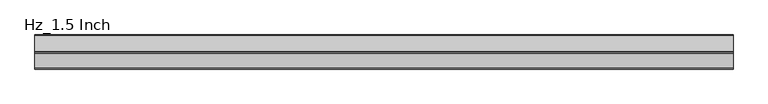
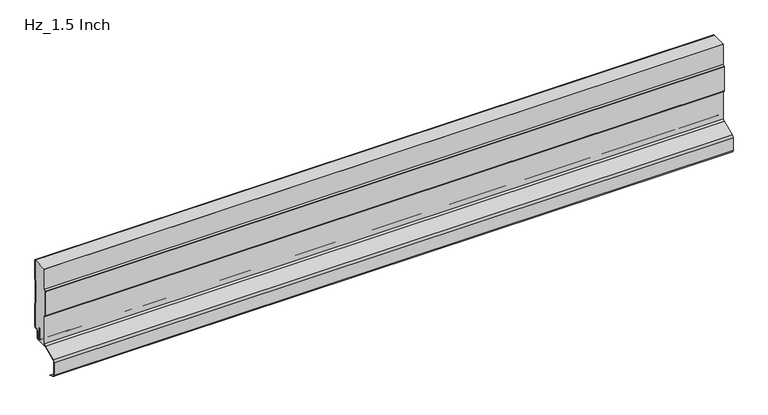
"""IFC4 building model written with IfcOpenShell, lengths in millimetres: plate geometry, AWIP_R18_CP_HR3_Hz_Roof Panel : Hz_1.5 Inch."""

from ifc_helpers import new_model, si_unit, point, frame, frame_2d, origin, place, context, project, spatial, polyline, circle_curve, trimmed, segment, composite_curve, outline, extrude, source, transform, mapped, element, save
from ifc_brep_helpers import plane_surface, cylinder_surface, revolved_surface, advanced_brep


def hz_1_5_inch_3f18da90(model_context):
    return source(origin(), model_context, "Body", "SolidModel", [
        extrude(outline(composite_curve([segment(polyline([(-0.8, 161.5426774), (-0.8, 203.2), (0.0, 203.2), (0.0, 161.5426774)]), True, "CONTINUOUS"), segment(trimmed(circle_curve(frame_2d((-3.2, 161.5426774)), 3.2), [point((0.0, 161.5426774))], [point((-0.2624164, 160.2735823))], False, "CARTESIAN"), True, "CONTINUOUS"), segment(polyline([(-0.2624164, 160.2735823), (-1.2949872, 157.8834831)]), True, "CONTINUOUS"), segment(trimmed(circle_curve(frame_2d((1.0, 156.8920026)), 2.5), [point((-1.2949872, 157.8834831))], [point((-1.5, 156.8920026))], True, "CARTESIAN"), True, "CONTINUOUS"), segment(polyline([(-1.5, 156.8920026), (-1.5, 108.5079974)]), True, "CONTINUOUS"), segment(trimmed(circle_curve(frame_2d((1.0, 108.5079974)), 2.5), [point((-1.5, 108.5079974))], [point((-1.2949872, 107.5165169))], True, "CARTESIAN"), True, "CONTINUOUS"), segment(polyline([(-1.2949872, 107.5165169), (-0.2624164, 105.1264177)]), True, "CONTINUOUS"), segment(trimmed(circle_curve(frame_2d((-3.2, 103.8573226)), 3.2), [point((-0.2624164, 105.1264177))], [point((0.0, 103.8573226))], False, "CARTESIAN"), True, "CONTINUOUS"), segment(polyline([(0.0, 103.8573226), (0.0, 54.1)]), True, "CONTINUOUS"), segment(trimmed(circle_curve(frame_2d((-3.0, 54.1)), 3.0), [point((0.0, 54.1))], [point((-3.0, 51.1))], False, "CARTESIAN"), True, "CONTINUOUS"), segment(polyline([(-3.0, 51.1), (-5.0, 51.1)]), True, "CONTINUOUS"), segment(trimmed(circle_curve(frame_2d((-5.0, 47.1)), 4.0), [point((-5.0, 51.1))], [point((-9.0, 47.1))], True, "CARTESIAN"), True, "CONTINUOUS"), segment(polyline([(-9.0, 47.1), (-9.0, 33.5841899)]), True, "CONTINUOUS"), segment(trimmed(circle_curve(frame_2d((-12.0, 33.5841899)), 3.0), [point((-9.0, 33.5841899))], [point((-12.0, 30.5841899))], False, "CARTESIAN"), True, "CONTINUOUS"), segment(polyline([(-12.0, 30.5841899), (-14.0, 30.5841899)]), True, "CONTINUOUS"), segment(trimmed(circle_curve(frame_2d((-14.0, 33.5841899)), 3.0), [point((-14.0, 30.5841899))], [point((-17.0, 33.5841899))], False, "CARTESIAN"), True, "CONTINUOUS"), segment(polyline([(-17.0, 33.5841899), (-17.0, 59.5252318), (-16.2, 59.5252318), (-16.2, 33.5841899)]), True, "CONTINUOUS"), segment(trimmed(circle_curve(frame_2d((-14.0, 33.5841899)), 2.2), [point((-16.2, 33.5841899))], [point((-14.0, 31.3841899))], True, "CARTESIAN"), True, "CONTINUOUS"), segment(polyline([(-14.0, 31.3841899), (-12.0, 31.3841899)]), True, "CONTINUOUS"), segment(trimmed(circle_curve(frame_2d((-12.0, 33.5841899)), 2.2), [point((-12.0, 31.3841899))], [point((-9.8, 33.5841899))], True, "CARTESIAN"), True, "CONTINUOUS"), segment(polyline([(-9.8, 33.5841899), (-9.8, 47.1)]), True, "CONTINUOUS"), segment(trimmed(circle_curve(frame_2d((-5.0, 47.1)), 4.8), [point((-9.8, 47.1))], [point((-5.0, 51.9))], False, "CARTESIAN"), True, "CONTINUOUS"), segment(polyline([(-5.0, 51.9), (-3.0, 51.9)]), True, "CONTINUOUS"), segment(trimmed(circle_curve(frame_2d((-3.0, 54.1)), 2.2), [point((-3.0, 51.9))], [point((-0.8, 54.1))], True, "CARTESIAN"), True, "CONTINUOUS"), segment(polyline([(-0.8, 54.1), (-0.8, 103.8573226)]), True, "CONTINUOUS"), segment(trimmed(circle_curve(frame_2d((-3.2, 103.8573226)), 2.4), [point((-0.8, 103.8573226))], [point((-0.9968123, 104.8091439))], True, "CARTESIAN"), True, "CONTINUOUS"), segment(polyline([(-0.9968123, 104.8091439), (-2.0293831, 107.1992431)]), True, "CONTINUOUS"), segment(trimmed(circle_curve(frame_2d((1.0, 108.5079974)), 3.3), [point((-2.0293831, 107.1992431))], [point((-2.3, 108.5079974))], False, "CARTESIAN"), True, "CONTINUOUS"), segment(polyline([(-2.3, 108.5079974), (-2.3, 156.8920026)]), True, "CONTINUOUS"), segment(trimmed(circle_curve(frame_2d((1.0, 156.8920026)), 3.3), [point((-2.3, 156.8920026))], [point((-2.0293831, 158.2007569))], False, "CARTESIAN"), True, "CONTINUOUS"), segment(polyline([(-2.0293831, 158.2007569), (-0.9968123, 160.5908561)]), True, "CONTINUOUS"), segment(trimmed(circle_curve(frame_2d((-3.2, 161.5426774)), 2.4), [point((-0.9968123, 160.5908561))], [point((-0.8, 161.5426774))], True, "CARTESIAN"), True, "CONTINUOUS")], self_intersect=False)), frame((-723.9042608, 0.0, 0.0), z_axis=(1.0, 0.0, 0.0), x_axis=(0.0, 1.0, 0.0)), (0.0, 0.0, 1.0), 1447.8085217),
        extrude(outline(composite_curve([segment(trimmed(circle_curve(frame_2d((-35.8158802, 96.0266872)), 1.3), [point((-34.7621793, 96.788077))], [point((-34.5158802, 96.0266872))], False, "CARTESIAN"), True, "CONTINUOUS"), segment(polyline([(-34.5158802, 96.0266872), (-34.5158802, 35.2427703)]), True, "CONTINUOUS"), segment(trimmed(circle_curve(frame_2d((-39.3158801, 35.2427703)), 4.7999999), [point((-34.5158802, 35.2427703))], [point((-37.440401, 30.8243343))], False, "CARTESIAN"), True, "CONTINUOUS"), segment(polyline([(-37.440401, 30.8243343), (-67.4569246, 18.0833189)]), True, "CONTINUOUS"), segment(trimmed(circle_curve(frame_2d((-65.8158804, 14.2171873)), 4.2), [point((-67.4569246, 18.0833189))], [point((-70.0158804, 14.2171873))], True, "CARTESIAN"), True, "CONTINUOUS"), segment(polyline([(-70.0158804, 14.2171873), (-70.0158804, -14.1639048)]), True, "CONTINUOUS"), segment(trimmed(circle_curve(frame_2d((-65.8158804, -14.1639048)), 4.2), [point((-70.0158804, -14.1639048))], [point((-67.4569214, -18.0300378))], True, "CARTESIAN"), True, "CONTINUOUS"), segment(polyline([(-67.4569214, -18.0300378), (-54.854669, -23.3792623), (-55.1672482, -24.1156686), (-67.7695006, -18.7664441)]), True, "CONTINUOUS"), segment(trimmed(circle_curve(frame_2d((-65.8158804, -14.1639048)), 5.0), [point((-67.7695006, -18.7664441))], [point((-70.8158804, -14.1639048))], False, "CARTESIAN"), True, "CONTINUOUS"), segment(polyline([(-70.8158804, -14.1639048), (-70.8158804, 14.2171873)]), True, "CONTINUOUS"), segment(trimmed(circle_curve(frame_2d((-65.8158804, 14.2171873)), 5.0), [point((-70.8158804, 14.2171873))], [point((-67.7695045, 18.8197249))], False, "CARTESIAN"), True, "CONTINUOUS"), segment(polyline([(-67.7695045, 18.8197249), (-37.7529809, 31.5607405)]), True, "CONTINUOUS"), segment(trimmed(circle_curve(frame_2d((-39.3158801, 35.2427703)), 3.9999997), [point((-37.7529809, 31.5607405))], [point((-35.3158804, 35.2427703))], True, "CARTESIAN"), True, "CONTINUOUS"), segment(polyline([(-35.3158804, 35.2427703), (-35.3158804, 96.1884306), (-37.8158081, 99.6481249)]), True, "CONTINUOUS"), segment(trimmed(circle_curve(frame_2d((-36.5999994, 100.5266516)), 1.4999999), [point((-37.8158081, 99.6481249))], [point((-38.0999994, 100.5266516))], False, "CARTESIAN"), True, "CONTINUOUS"), segment(polyline([(-38.0999994, 100.5266516), (-38.0999994, 154.2756802)]), True, "CONTINUOUS"), segment(trimmed(circle_curve(frame_2d((-36.5999997, 154.2766516)), 1.5), [point((-38.0999994, 154.2756802))], [point((-37.8158084, 155.1551783))], False, "CARTESIAN"), True, "CONTINUOUS"), segment(polyline([(-37.8158084, 155.1551783), (-35.3158803, 158.6148732), (-35.3158803, 203.2), (-34.5158802, 203.2), (-34.5158802, 158.7766163)]), True, "CONTINUOUS"), segment(trimmed(circle_curve(frame_2d((-35.8158802, 158.7766163)), 1.3), [point((-34.5158802, 158.7766163))], [point((-34.7621793, 158.0152264))], False, "CARTESIAN"), True, "CONTINUOUS"), segment(polyline([(-34.7621793, 158.0152264), (-37.2999997, 154.5030919), (-37.2999997, 100.3002117), (-34.7621793, 96.788077)]), True, "CONTINUOUS")], self_intersect=False)), frame((-723.9042608, 0.0, 0.0), z_axis=(1.0, 0.0, 0.0), x_axis=(0.0, 1.0, 0.0)), (0.0, 0.0, 1.0), 1447.8085217),
        advanced_brep(
        [(-723.9042608, -34.5158802, 35.2427703), (-723.9042608, -34.5158802, 96.0266872), (-723.9042608, -34.7621793, 96.788077), (-723.9042608, -37.2999997, 100.3002117), (-723.9042608, -37.2999997, 154.5030919), (-723.9042608, -34.7621793, 158.0152264), (-723.9042608, -34.5158802, 158.7766163), (-723.9042608, -34.5158802, 203.2), (-723.9042608, -0.8, 203.2), (-723.9042608, -0.8, 161.5426774), (-723.9042608, -0.9968123, 160.5908561), (-723.9042608, -2.0293831, 158.2007569), (-723.9042608, -2.3, 156.8920026), (-723.9042608, -2.3, 108.5079974), (-723.9042608, -2.0293831, 107.1992431), (-723.9042608, -0.9968123, 104.8091439), (-723.9042608, -0.8, 103.8573226), (-723.9042608, -0.8, 54.1), (-723.9042608, -3.0, 51.9), (-723.9042608, -5.0, 51.9), (-723.9042608, -9.8, 47.1), (-723.9042608, -9.8, 33.5841899), (-723.9042608, -12.0, 31.3841899), (-723.9042608, -14.0, 31.3841899), (-723.9042608, -16.2, 33.5841899), (-723.9042608, -16.2, 59.5252318), (-723.9042608, -17.0, 59.5252318), (-723.9042608, -17.0, 33.5841899), (-723.9042608, -14.0, 30.5841899), (-723.9042608, -38.2298572, 30.5672433), (723.9042608, -34.5158802, 35.2427703), (723.9042608, -38.2298572, 30.5672433), (723.9042608, -14.0, 30.5672433), (723.9042608, -17.0, 33.5841899), (723.9042608, -17.0, 59.5252318), (723.9042608, -16.2, 59.5252318), (723.9042608, -16.2, 33.5841899), (723.9042608, -14.0, 31.3841899), (723.9042608, -12.0, 31.3841899), (723.9042608, -9.8, 33.5841899), (723.9042608, -9.8, 47.1), (723.9042608, -5.0, 51.9), (723.9042608, -3.0, 51.9), (723.9042608, -0.8, 54.1), (723.9042608, -0.8, 103.8573226), (723.9042608, -0.9968123, 104.8091439), (723.9042608, -2.0293831, 107.1992431), (723.9042608, -2.3, 108.5079974), (723.9042608, -2.3, 156.8920026), (723.9042608, -2.0293831, 158.2007569), (723.9042608, -0.9968123, 160.5908561), (723.9042608, -0.8, 161.5426774), (723.9042608, -0.8, 203.2), (723.9042608, -34.5158802, 203.2), (723.9042608, -34.5158802, 158.7766163), (723.9042608, -34.7621793, 158.0152264), (723.9042608, -37.2999997, 154.5030919), (723.9042608, -37.2999997, 100.3002117), (723.9042608, -34.7621793, 96.788077), (723.9042608, -34.5158802, 96.0266872)],
        [
            (0, 1),
            (1, 2, circle_curve(frame((-723.9042608, -35.8158802, 96.0266872), z_axis=(1.0, 0.0, 0.0), x_axis=(0.0, -1.0, 0.0)), 1.3)),
            (2, 3),
            (3, 4),
            (4, 5),
            (5, 6, circle_curve(frame((-723.9042608, -35.8158802, 158.7766163), z_axis=(1.0, 0.0, 0.0), x_axis=(0.0, -1.0, 0.0)), 1.3)),
            (6, 7),
            (7, 8),
            (8, 9),
            (9, 10, circle_curve(frame((-723.9042608, -3.2, 161.5426774), z_axis=(-1.0, 0.0, 0.0), x_axis=(0.0, -1.0, 0.0)), 2.4)),
            (10, 11),
            (11, 12, circle_curve(frame((-723.9042608, 1.0, 156.8920026), z_axis=(1.0, 0.0, 0.0), x_axis=(0.0, -1.0, 0.0)), 3.3)),
            (12, 13),
            (13, 14, circle_curve(frame((-723.9042608, 1.0, 108.5079974), z_axis=(1.0, 0.0, 0.0), x_axis=(0.0, -1.0, 0.0)), 3.3)),
            (14, 15),
            (15, 16, circle_curve(frame((-723.9042608, -3.2, 103.8573226), z_axis=(-1.0, 0.0, 0.0), x_axis=(0.0, -1.0, 0.0)), 2.4)),
            (16, 17),
            (17, 18, circle_curve(frame((-723.9042608, -3.0, 54.1), z_axis=(-1.0, 0.0, 0.0), x_axis=(0.0, -1.0, 0.0)), 2.2)),
            (18, 19),
            (19, 20, circle_curve(frame((-723.9042608, -5.0, 47.1), z_axis=(1.0, 0.0, 0.0), x_axis=(0.0, -1.0, 0.0)), 4.8)),
            (20, 21),
            (21, 22, circle_curve(frame((-723.9042608, -12.0, 33.5841899), z_axis=(-1.0, 0.0, 0.0), x_axis=(0.0, -1.0, 0.0)), 2.2)),
            (22, 23),
            (23, 24, circle_curve(frame((-723.9042608, -14.0, 33.5841899), z_axis=(-1.0, 0.0, 0.0), x_axis=(0.0, -1.0, 0.0)), 2.2)),
            (24, 25),
            (25, 26),
            (26, 27),
            (27, 28, circle_curve(frame((-723.9042608, -14.0, 33.5841899), z_axis=(1.0, 0.0, 0.0), x_axis=(0.0, -1.0, 0.0)), 3.0)),
            (28, 29),
            (29, 0, circle_curve(frame((-723.9042608, -39.3158801, 35.2427703), z_axis=(1.0, 0.0, 0.0), x_axis=(0.0, -1.0, 0.0)), 4.7999999)),
            (30, 31, circle_curve(frame((723.9042608, -39.3158801, 35.2427703), z_axis=(-1.0, 0.0, 0.0), x_axis=(0.0, -1.0, 0.0)), 4.7999999)),
            (31, 32),
            (32, 33, circle_curve(frame((723.9042608, -14.0, 33.5841899), z_axis=(-1.0, 0.0, 0.0), x_axis=(0.0, -1.0, 0.0)), 3.0)),
            (33, 34),
            (34, 35),
            (35, 36),
            (36, 37, circle_curve(frame((723.9042608, -14.0, 33.5841899), z_axis=(1.0, 0.0, 0.0), x_axis=(0.0, -1.0, 0.0)), 2.2)),
            (37, 38),
            (38, 39, circle_curve(frame((723.9042608, -12.0, 33.5841899), z_axis=(1.0, 0.0, 0.0), x_axis=(0.0, -1.0, 0.0)), 2.2)),
            (39, 40),
            (40, 41, circle_curve(frame((723.9042608, -5.0, 47.1), z_axis=(-1.0, 0.0, 0.0), x_axis=(0.0, -1.0, 0.0)), 4.8)),
            (41, 42),
            (42, 43, circle_curve(frame((723.9042608, -3.0, 54.1), z_axis=(1.0, 0.0, 0.0), x_axis=(0.0, -1.0, 0.0)), 2.2)),
            (43, 44),
            (44, 45, circle_curve(frame((723.9042608, -3.2, 103.8573226), z_axis=(1.0, 0.0, 0.0), x_axis=(0.0, -1.0, 0.0)), 2.4)),
            (45, 46),
            (46, 47, circle_curve(frame((723.9042608, 1.0, 108.5079974), z_axis=(-1.0, 0.0, 0.0), x_axis=(0.0, -1.0, 0.0)), 3.3)),
            (47, 48),
            (48, 49, circle_curve(frame((723.9042608, 1.0, 156.8920026), z_axis=(-1.0, 0.0, 0.0), x_axis=(0.0, -1.0, 0.0)), 3.3)),
            (49, 50),
            (50, 51, circle_curve(frame((723.9042608, -3.2, 161.5426774), z_axis=(1.0, 0.0, 0.0), x_axis=(0.0, -1.0, 0.0)), 2.4)),
            (51, 52),
            (52, 53),
            (53, 54),
            (54, 55, circle_curve(frame((723.9042608, -35.8158802, 158.7766163), z_axis=(-1.0, 0.0, 0.0), x_axis=(0.0, -1.0, 0.0)), 1.3)),
            (55, 56),
            (56, 57),
            (57, 58),
            (58, 59, circle_curve(frame((723.9042608, -35.8158802, 96.0266872), z_axis=(-1.0, 0.0, 0.0), x_axis=(0.0, -1.0, 0.0)), 1.3)),
            (59, 30),
            (7, 53),
            (52, 8),
            (29, 31),
            (30, 0),
            (28, 32),
            (27, 33),
            (26, 34),
            (25, 35),
            (24, 36),
            (23, 37),
            (22, 38),
            (21, 39),
            (20, 40),
            (19, 41),
            (18, 42),
            (17, 43),
            (16, 44),
            (15, 45),
            (14, 46),
            (13, 47),
            (12, 48),
            (11, 49),
            (10, 50),
            (9, 51),
            (6, 54),
            (5, 55),
            (4, 56),
            (3, 57),
            (2, 58),
            (1, 59),
        ],
        [
            plane_surface(frame((-723.9042608, -0.8, 508.0), z_axis=(-1.0, 0.0, 0.0), x_axis=(0.0, -1.0, 0.0))),
            plane_surface(frame((723.9042608, -0.8, 508.0), z_axis=(1.0, 0.0, 0.0), x_axis=(0.0, -1.0, 0.0))),
            plane_surface(frame((723.9042608, 5.0, 203.2), z_axis=(0.0, 0.0, 1.0), x_axis=(-1.0, 0.0, 0.0))),
            revolved_surface(polyline([(723.9042608, -44.115880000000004, 35.2427703), (-723.9042608, -44.115880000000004, 35.2427703)]), (-723.9042608, -39.3158801, 35.2427703), (1.0, 0.0, 0.0)),
            plane_surface(frame((-723.9042608, -38.2298572, 30.5672433), z_axis=(0.0, 0.0, -1.0), x_axis=(1.0, 0.0, 0.0))),
            revolved_surface(polyline([(723.9042608, -17.0, 33.5841899), (-723.9042608, -17.0, 33.5841899)]), (-723.9042608, -14.0, 33.5841899), (1.0, 0.0, 0.0)),
            plane_surface(frame((-723.9042608, -17.0, 33.5841899), z_axis=(0.0, 1.0, 0.0), x_axis=(1.0, 0.0, 0.0))),
            plane_surface(frame((-723.9042608, -17.0, 59.5252318), z_axis=(0.0, 0.0, -1.0), x_axis=(1.0, 0.0, 0.0))),
            plane_surface(frame((-723.9042608, -16.2, 59.5252318), z_axis=(0.0, -1.0, 0.0), x_axis=(1.0, 0.0, 0.0))),
            cylinder_surface(frame((-723.9042608, -14.0, 33.5841899), z_axis=(-1.0, 0.0, 0.0), x_axis=(0.0, -1.0, 0.0)), 2.2),
            plane_surface(frame((-723.9042608, -14.0, 31.3841899), z_axis=(0.0, 0.0, -1.0), x_axis=(1.0, 0.0, 0.0))),
            cylinder_surface(frame((-723.9042608, -12.0, 33.5841899), z_axis=(-1.0, 0.0, 0.0), x_axis=(0.0, -1.0, 0.0)), 2.2),
            plane_surface(frame((-723.9042608, -9.8, 33.5841899), z_axis=(0.0, 1.0, 0.0), x_axis=(1.0, 0.0, 0.0))),
            revolved_surface(polyline([(723.9042608, -9.8, 47.1), (-723.9042608, -9.8, 47.1)]), (-723.9042608, -5.0, 47.1), (1.0, 0.0, 0.0)),
            plane_surface(frame((-723.9042608, -5.0, 51.9), z_axis=(0.0, 0.0, -1.0), x_axis=(1.0, 0.0, 0.0))),
            cylinder_surface(frame((-723.9042608, -3.0, 54.1), z_axis=(-1.0, 0.0, 0.0), x_axis=(0.0, -1.0, 0.0)), 2.2),
            plane_surface(frame((-723.9042608, -0.8, 54.1), z_axis=(0.0, 1.0, 0.0), x_axis=(1.0, 0.0, 0.0))),
            cylinder_surface(frame((-723.9042608, -3.2, 103.8573226), z_axis=(-1.0, 0.0, 0.0), x_axis=(0.0, -1.0, 0.0)), 2.4),
            plane_surface(frame((-723.9042608, -0.9968123, 104.8091439), z_axis=(0.0, 0.9179948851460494, 0.3965922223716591), x_axis=(1.0, 0.0, 0.0))),
            revolved_surface(polyline([(723.9042608, -2.3, 108.5079974), (-723.9042608, -2.3, 108.5079974)]), (-723.9042608, 1.0, 108.5079974), (1.0, 0.0, 0.0)),
            plane_surface(frame((-723.9042608, -2.3, 108.5079974), z_axis=(0.0, 1.0, 0.0), x_axis=(1.0, 0.0, 0.0))),
            revolved_surface(polyline([(723.9042608, -2.3, 156.8920026), (-723.9042608, -2.3, 156.8920026)]), (-723.9042608, 1.0, 156.8920026), (1.0, 0.0, 0.0)),
            plane_surface(frame((-723.9042608, -2.0293831, 158.2007569), z_axis=(0.0, 0.9179948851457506, -0.39659222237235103), x_axis=(1.0, 0.0, 0.0))),
            cylinder_surface(frame((-723.9042608, -3.2, 161.5426774), z_axis=(-1.0, 0.0, 0.0), x_axis=(0.0, -1.0, 0.0)), 2.4),
            plane_surface(frame((-723.9042608, -0.8, 161.5426774), z_axis=(0.0, 1.0, 0.0), x_axis=(1.0, 0.0, 0.0))),
            plane_surface(frame((-723.9042608, -34.5158802, 219.2727425), z_axis=(0.0, -1.0, 0.0), x_axis=(1.0, 0.0, 0.0))),
            revolved_surface(polyline([(723.9042608, -37.1158802, 158.7766163), (-723.9042608, -37.1158802, 158.7766163)]), (-723.9042608, -35.8158802, 158.7766163), (1.0, 0.0, 0.0)),
            plane_surface(frame((-723.9042608, -34.7621793, 158.0152264), z_axis=(0.0, -0.8105391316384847, 0.585684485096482), x_axis=(1.0, 0.0, 0.0))),
            plane_surface(frame((-723.9042608, -37.2999997, 154.5030919), z_axis=(0.0, -1.0, 0.0), x_axis=(1.0, 0.0, 0.0))),
            plane_surface(frame((-723.9042608, -37.2999997, 100.3002117), z_axis=(0.0, -0.8105391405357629, -0.5856844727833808), x_axis=(1.0, 0.0, 0.0))),
            revolved_surface(polyline([(723.9042608, -37.1158802, 96.0266872), (-723.9042608, -37.1158802, 96.0266872)]), (-723.9042608, -35.8158802, 96.0266872), (1.0, 0.0, 0.0)),
            plane_surface(frame((-723.9042608, -34.5158802, 96.0266872), z_axis=(0.0, -1.0, 0.0), x_axis=(1.0, 0.0, 0.0))),
        ],
        [
            (0, [[1, 2, 3, 4, 5, 6, 7, 8, 9, 10, 11, 12, 13, 14, 15, 16, 17, 18, 19, 20, 21, 22, 23, 24, 25, 26, 27, 28, 29, 30]]),
            (1, [[31, 32, 33, 34, 35, 36, 37, 38, 39, 40, 41, 42, 43, 44, 45, 46, 47, 48, 49, 50, 51, 52, 53, 54, 55, 56, 57, 58, 59, 60]]),
            (2, [[61, -53, 62, -8]]),
            (3, [[63, -31, 64, -30]]),
            (4, [[65, -32, -63, -29]]),
            (5, [[66, -33, -65, -28]]),
            (6, [[67, -34, -66, -27]]),
            (7, [[68, -35, -67, -26]]),
            (8, [[69, -36, -68, -25]]),
            (9, [[70, -37, -69, -24]]),
            (10, [[71, -38, -70, -23]]),
            (11, [[72, -39, -71, -22]]),
            (12, [[73, -40, -72, -21]]),
            (13, [[74, -41, -73, -20]]),
            (14, [[75, -42, -74, -19]]),
            (15, [[76, -43, -75, -18]]),
            (16, [[77, -44, -76, -17]]),
            (17, [[78, -45, -77, -16]]),
            (18, [[79, -46, -78, -15]]),
            (19, [[80, -47, -79, -14]]),
            (20, [[81, -48, -80, -13]]),
            (21, [[82, -49, -81, -12]]),
            (22, [[83, -50, -82, -11]]),
            (23, [[84, -51, -83, -10]]),
            (24, [[-9, -62, -52, -84]]),
            (25, [[-54, -61, -7, 85]]),
            (26, [[86, -55, -85, -6]]),
            (27, [[87, -56, -86, -5]]),
            (28, [[88, -57, -87, -4]]),
            (29, [[89, -58, -88, -3]]),
            (30, [[90, -59, -89, -2]]),
            (31, [[-64, -60, -90, -1]]),
        ],
    ),
    ])


if __name__ == "__main__":
    model = new_model("IFC4")
    model_context = context("Model", 3, world=origin())
    ifc_project = project(units=[si_unit("LENGTHUNIT", "METRE", prefix="MILLI")], contexts=[model_context])
    site = spatial("IfcSite", under=ifc_project)
    building = spatial("IfcBuilding", under=site)
    placement = place(None, origin())
    hz_1_5_inch_shape = hz_1_5_inch_3f18da90(model_context)
    element("IfcPlate", 1, ObjectType="AWIP_R18_CP_HR3_Hz_Roof Panel : Hz_1.5 Inch", at=placement, inside=building, context=model_context, shape_type="MappedRepresentation", body=[
        mapped(hz_1_5_inch_shape, transform((0.0, 0.0, 0.0), x_axis=(1.0, 0.0, 0.0), y_axis=(0.0, 1.0, 0.0), z_axis=(0.0, 0.0, 1.0))),
    ])
    save(model, "model.ifc")
